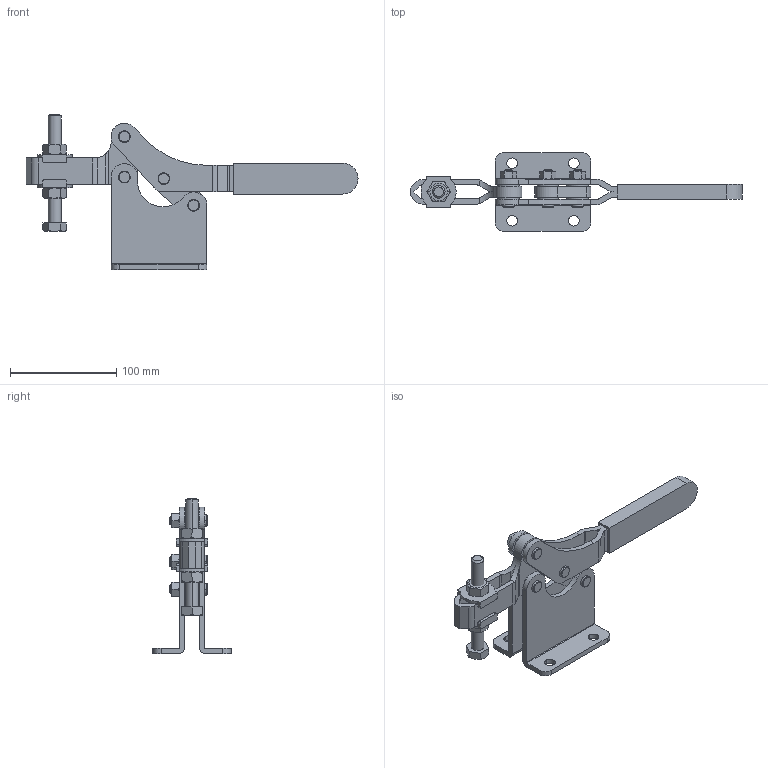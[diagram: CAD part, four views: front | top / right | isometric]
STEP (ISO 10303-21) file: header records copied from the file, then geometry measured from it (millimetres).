
FILE_DESCRIPTION(('CATIA V5 STEP Exchange'),'2;1');
FILE_NAME('D:\Model\toggle\toggle_standard\KJF_065_23F.stp','2005-06-24T03:09:09+00:00',('none'),('none'),'CATIA Version 5 Release 11 (IN-9)','CATIA V5 STEP AP203',' none');
FILE_SCHEMA(('CONFIG_CONTROL_DESIGN'));
Length unit declared in the file: millimetre
Products named in the file (1): Part1
Bounding box: 312 x 74 x 145.89 mm (x, y, z)
Volume: 259558.9 mm3; surface area: 109235 mm2
Topology: 26 solids, 26 shells, 372 faces, 924 edges, 608 vertices
Faces by surface type: plane 167, cylinder 117, cone 78, torus 10
Entity records: 11478 total; most frequent: CARTESIAN_POINT 3347, ORIENTED_EDGE 1848, DIRECTION 1276, EDGE_CURVE 924, VERTEX_POINT 608, AXIS2_PLACEMENT_3D 591, VECTOR 416, LINE 416
